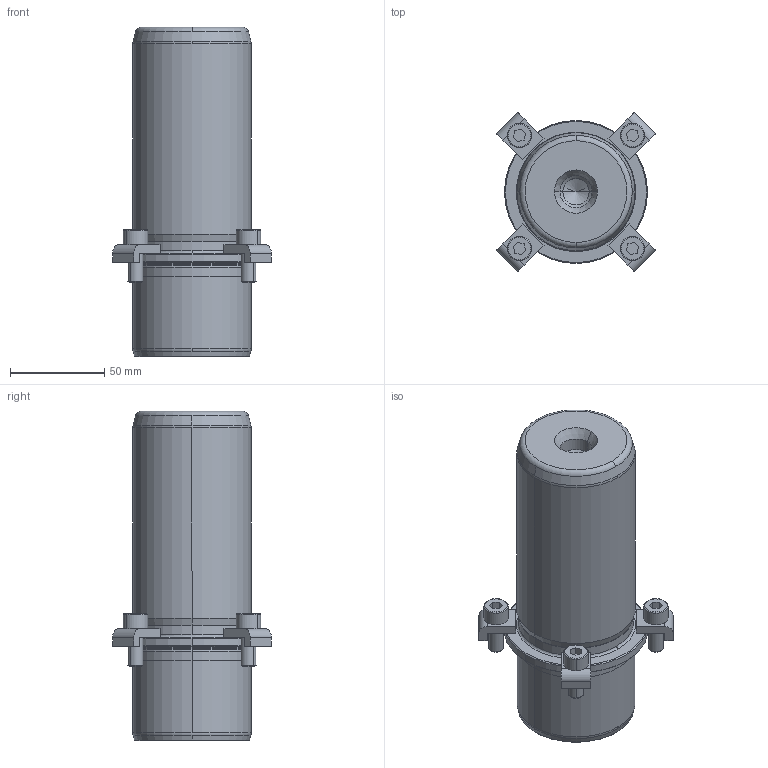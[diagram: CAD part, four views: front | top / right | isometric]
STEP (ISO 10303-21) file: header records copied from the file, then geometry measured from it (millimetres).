
FILE_DESCRIPTION((''),'2;1');
FILE_NAME('P21_063_125.stp','2008-12-23T09:19:50',(''),(''),'Mechanical Desktop 2009','Mechanical Desktop 2009',', , ');
FILE_SCHEMA(('CONFIG_CONTROL_DESIGN'));
Length unit declared in the file: millimetre
Products named in the file (2): Product; blmdl1
Assembly tree (1 placements, depth 2):
  Product
    blmdl1
Bounding box: 84.5 x 84.5 x 175 mm (x, y, z)
Volume: 544899.4 mm3; surface area: 56263.4 mm2
Topology: 9 solids, 9 shells, 195 faces, 477 edges, 309 vertices
Faces by surface type: plane 77, cylinder 52, cone 34, torus 16, bspline 16
Entity records: 6547 total; most frequent: CARTESIAN_POINT 1683, DIRECTION 1078, ORIENTED_EDGE 946, EDGE_CURVE 473, AXIS2_PLACEMENT_3D 424, VERTEX_POINT 309, CIRCLE 243, VECTOR 230
